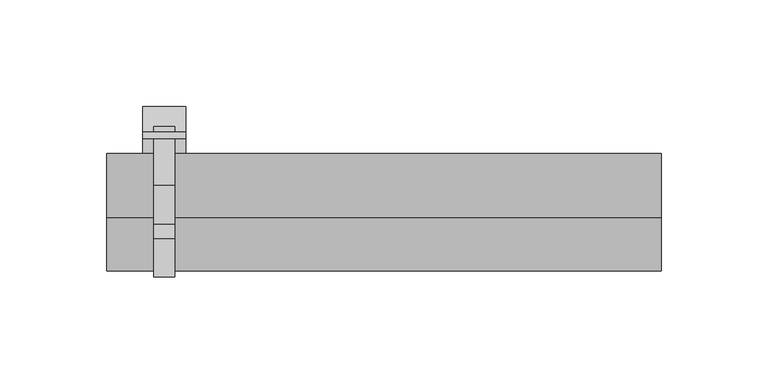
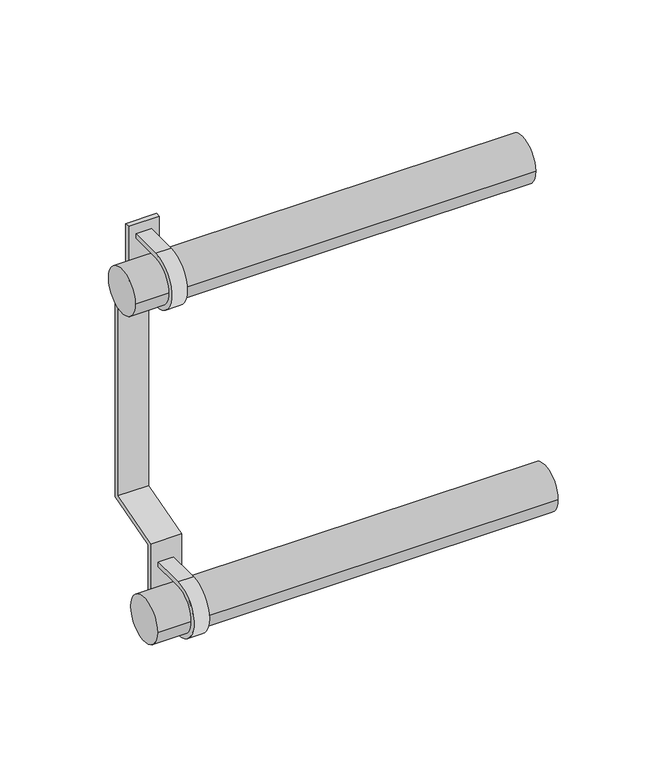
"""IFC4 building model written with IfcOpenShell, lengths in millimetres: valve geometry, PL CZ_Manifold_FT-VA : 04 circuits."""

from ifc_helpers import new_model, si_unit, point, frame, frame_2d, origin, origin_2d, place, context, project, spatial, polyline, circle_curve, trimmed, segment, composite_curve, outline, extrude, source, transform, mapped, element, save


def valve_da24817b(model_context):
    return source(origin(), model_context, "Body", "SweptSolid", [
        extrude(outline(composite_curve([segment(trimmed(circle_curve(origin_2d(), 15.0), [point((0.0, 15.0))], [point((0.0, -15.0))], True, "CARTESIAN"), True, "CONTINUOUS"), segment(polyline([(0.0, -15.0), (27.6751284, -15.0), (27.6751284, -18.0), (0.0, -18.0)]), True, "CONTINUOUS"), segment(trimmed(circle_curve(origin_2d(), 18.0), [point((0.0, -18.0))], [point((0.0, 18.0))], False, "CARTESIAN"), True, "CONTINUOUS"), segment(polyline([(0.0, 18.0), (27.6751284, 18.0), (27.6751284, 15.0), (0.0, 15.0)]), True, "CONTINUOUS")], self_intersect=False)), frame((5.0, 0.0, 0.0), z_axis=(1.0, 0.0, 0.0), x_axis=(0.0, 1.0, 0.0)), (0.0, 0.0, 1.0), 10.0),
        extrude(outline(composite_curve([segment(trimmed(circle_curve(frame_2d((25.0, 210.0)), 15.0), [point((25.0, 225.0))], [point((25.0, 195.0))], True, "CARTESIAN"), True, "CONTINUOUS"), segment(polyline([(25.0, 195.0), (52.6751284, 195.0), (52.6751284, 192.0), (25.0, 192.0)]), True, "CONTINUOUS"), segment(trimmed(circle_curve(frame_2d((25.0, 210.0)), 18.0), [point((25.0, 192.0))], [point((25.0, 228.0))], False, "CARTESIAN"), True, "CONTINUOUS"), segment(polyline([(25.0, 228.0), (52.6751284, 228.0), (52.6751284, 225.0), (25.0, 225.0)]), True, "CONTINUOUS")], self_intersect=False)), frame((5.0, 0.0, 0.0), z_axis=(1.0, 0.0, 0.0), x_axis=(0.0, 1.0, 0.0)), (0.0, 0.0, 1.0), 10.0),
        extrude(outline(polyline([(62.0, 182.8840762), (62.0, 40.6095793), (25.0, 30.0), (25.0, -30.0), (22.0, -30.0), (22.0, 32.2606622), (59.0, 42.8702414), (59.0, 180.3667773), (47.0, 182.4827011), (47.0, 235.0), (50.0, 235.0), (50.0, 185.0), (62.0, 182.8840762)])), frame((0.0, 0.0, 0.0), z_axis=(1.0, 0.0, 0.0), x_axis=(0.0, 1.0, 0.0)), (0.0, 0.0, 1.0), 20.0),
        extrude(outline(composite_curve([segment(trimmed(circle_curve(origin_2d(), 15.0), [point((15.0, 0.0))], [point((-15.0, 0.0))], False, "CARTESIAN"), True, "CONTINUOUS"), segment(trimmed(circle_curve(origin_2d(), 15.0), [point((-15.0, 0.0))], [point((15.0, 0.0))], False, "CARTESIAN"), True, "CONTINUOUS")], self_intersect=False)), frame((-17.0, 0.0, 0.0), z_axis=(1.0, 0.0, 0.0), x_axis=(0.0, 1.0, 0.0)), (0.0, 0.0, 1.0), 260.0),
        extrude(outline(composite_curve([segment(trimmed(circle_curve(frame_2d((25.0, 210.0)), 15.0), [point((40.0, 210.0))], [point((10.0, 210.0))], False, "CARTESIAN"), True, "CONTINUOUS"), segment(trimmed(circle_curve(frame_2d((25.0, 210.0)), 15.0), [point((10.0, 210.0))], [point((40.0, 210.0))], False, "CARTESIAN"), True, "CONTINUOUS")], self_intersect=False)), frame((-17.0, 0.0, 0.0), z_axis=(1.0, 0.0, 0.0), x_axis=(0.0, 1.0, 0.0)), (0.0, 0.0, 1.0), 260.0),
    ])


if __name__ == "__main__":
    model = new_model("IFC4")
    model_context = context("Model", 3, world=origin())
    ifc_project = project(units=[si_unit("LENGTHUNIT", "METRE", prefix="MILLI")], contexts=[model_context])
    site = spatial("IfcSite", under=ifc_project)
    building = spatial("IfcBuilding", under=site)
    placement = place(None, origin())
    valve_shape = valve_da24817b(model_context)
    element("IfcValve", 1, ObjectType="PL CZ_Manifold_FT-VA : 04 circuits", at=placement, inside=building, context=model_context, shape_type="MappedRepresentation", body=[
        mapped(valve_shape, transform((0.0, 0.0, 0.0), x_axis=(1.0, 0.0, 0.0), y_axis=(0.0, 1.0, 0.0), z_axis=(0.0, 0.0, 1.0))),
    ])
    save(model, "model.ifc")
